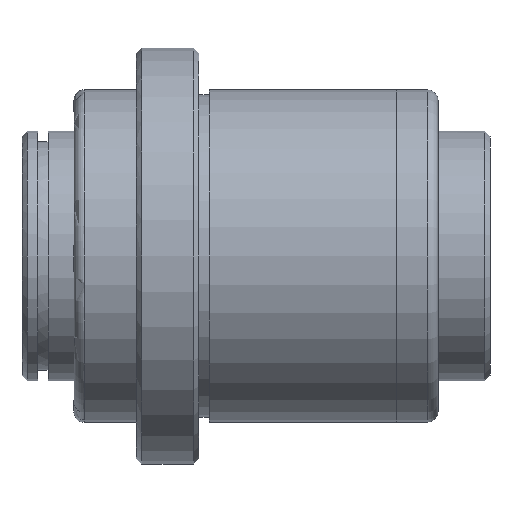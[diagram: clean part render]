
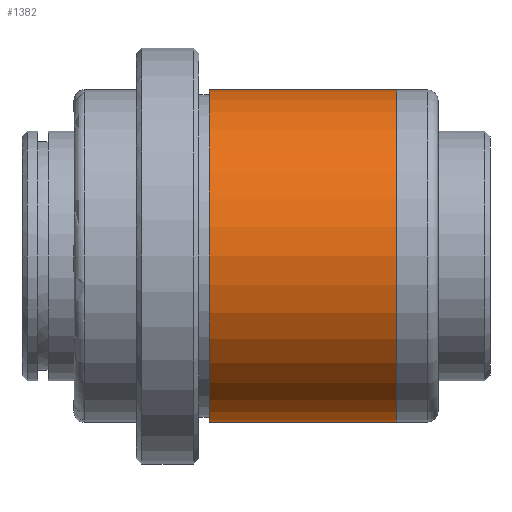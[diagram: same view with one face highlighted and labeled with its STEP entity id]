
A CAD part, front view. The second image highlights one B-rep face of the part: STEP entity #1382.
In plain terms, the highlighted cylindrical face has radius 16 mm (diameter 32 mm), a partial arc.
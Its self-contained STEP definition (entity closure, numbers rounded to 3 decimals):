
#1216=CARTESIAN_POINT('Vertex',(31.,0.,16.)) ;
#1219=CARTESIAN_POINT('Axis2P3D Location',(31.,0.,0.)) ;
#1223=CARTESIAN_POINT('Vertex',(31.,-16.,0.)) ;
#1226=CARTESIAN_POINT('Axis2P3D Location',(31.,0.,0.)) ;
#1230=CARTESIAN_POINT('Vertex',(31.,0.,-16.)) ;
#1322=CARTESIAN_POINT('Line Origine',(35.,0.,16.)) ;
#1326=CARTESIAN_POINT('Vertex',(13.,0.,16.)) ;
#1329=CARTESIAN_POINT('Line Origine',(35.,0.,-16.)) ;
#1333=CARTESIAN_POINT('Vertex',(13.,0.,-16.)) ;
#1357=CARTESIAN_POINT('Axis2P3D Location',(35.,0.,0.)) ;
#1362=CARTESIAN_POINT('Axis2P3D Location',(13.,0.,0.)) ;
#1366=CARTESIAN_POINT('Vertex',(13.,-16.,0.)) ;
#1369=CARTESIAN_POINT('Axis2P3D Location',(13.,0.,0.)) ;
#1220=DIRECTION('Axis2P3D Direction',(1.,0.,-0.)) ;
#1227=DIRECTION('Axis2P3D Direction',(1.,0.,-0.)) ;
#1323=DIRECTION('Vector Direction',(-1.,0.,0.)) ;
#1330=DIRECTION('Vector Direction',(-1.,0.,0.)) ;
#1358=DIRECTION('Axis2P3D Direction',(-1.,-0.,-0.)) ;
#1359=DIRECTION('Axis2P3D XDirection',(0.,0.,-1.)) ;
#1363=DIRECTION('Axis2P3D Direction',(-1.,-0.,-0.)) ;
#1370=DIRECTION('Axis2P3D Direction',(-1.,-0.,-0.)) ;
#1221=AXIS2_PLACEMENT_3D('Circle Axis2P3D',#1219,#1220,$) ;
#1228=AXIS2_PLACEMENT_3D('Circle Axis2P3D',#1226,#1227,$) ;
#1360=AXIS2_PLACEMENT_3D('Cylinder Axis2P3D',#1357,#1358,#1359) ;
#1364=AXIS2_PLACEMENT_3D('Circle Axis2P3D',#1362,#1363,$) ;
#1371=AXIS2_PLACEMENT_3D('Circle Axis2P3D',#1369,#1370,$) ;
#1375=ORIENTED_EDGE('',*,*,#1335,.T.) ;
#1376=ORIENTED_EDGE('',*,*,#1232,.F.) ;
#1377=ORIENTED_EDGE('',*,*,#1225,.F.) ;
#1378=ORIENTED_EDGE('',*,*,#1328,.T.) ;
#1379=ORIENTED_EDGE('',*,*,#1368,.T.) ;
#1380=ORIENTED_EDGE('',*,*,#1373,.T.) ;
#1324=VECTOR('Line Direction',#1323,1.) ;
#1331=VECTOR('Line Direction',#1330,1.) ;
#1382=ADVANCED_FACE('732-19',(#1381),#1361,.T.) ;
#1222=CIRCLE('generated circle',#1221,16.) ;
#1229=CIRCLE('generated circle',#1228,16.) ;
#1365=CIRCLE('generated circle',#1364,16.) ;
#1372=CIRCLE('generated circle',#1371,16.) ;
#1361=CYLINDRICAL_SURFACE('generated cylinder',#1360,16.) ;
#1225=EDGE_CURVE('',#1217,#1224,#1222,.T.) ;
#1232=EDGE_CURVE('',#1224,#1231,#1229,.T.) ;
#1328=EDGE_CURVE('',#1217,#1327,#1325,.T.) ;
#1335=EDGE_CURVE('',#1334,#1231,#1332,.F.) ;
#1368=EDGE_CURVE('',#1327,#1367,#1365,.F.) ;
#1373=EDGE_CURVE('',#1367,#1334,#1372,.F.) ;
#1374=EDGE_LOOP('',(#1375,#1376,#1377,#1378,#1379,#1380)) ;
#1381=FACE_OUTER_BOUND('',#1374,.T.) ;
#1325=LINE('Line',#1322,#1324) ;
#1332=LINE('Line',#1329,#1331) ;
#1217=VERTEX_POINT('',#1216) ;
#1224=VERTEX_POINT('',#1223) ;
#1231=VERTEX_POINT('',#1230) ;
#1327=VERTEX_POINT('',#1326) ;
#1334=VERTEX_POINT('',#1333) ;
#1367=VERTEX_POINT('',#1366) ;
